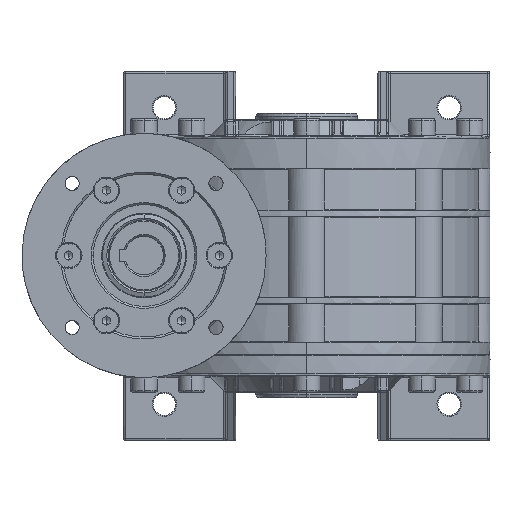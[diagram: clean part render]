
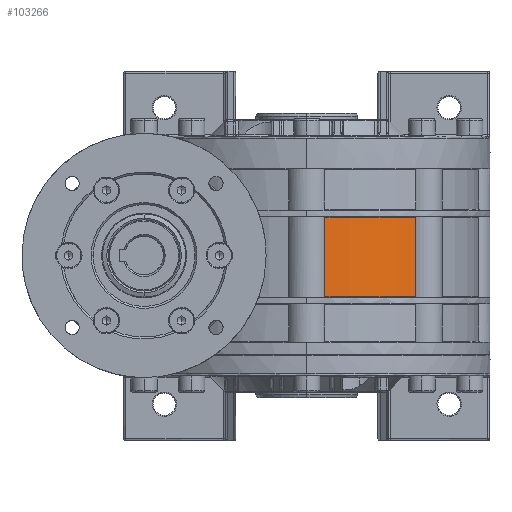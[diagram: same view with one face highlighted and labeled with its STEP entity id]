
A CAD part, left-side view. The second image highlights one B-rep face of the part: STEP entity #103266.
In plain terms, the highlighted cylindrical face has radius 85 mm (diameter 170 mm), a partial arc.
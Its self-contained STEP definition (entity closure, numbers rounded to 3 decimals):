
#35868 = CARTESIAN_POINT ( 'NONE',  ( 0., 0., 67.475 ) ) ;
#35922 = DIRECTION ( 'NONE',  ( 1., 0., 0. ) ) ;
#35923 = DIRECTION ( 'NONE',  ( 0., 0., 1. ) ) ;
#35924 = CARTESIAN_POINT ( 'NONE',  ( 0., 0., 28.475 ) ) ;
#35925 = AXIS2_PLACEMENT_3D ( 'NONE', #35924, #35923, #35922 ) ;
#35927 = CIRCLE ( 'NONE', #35925, 85. ) ;
#35937 = CARTESIAN_POINT ( 'NONE',  ( -66.076, -53.469, 28.475 ) ) ;
#35938 = DIRECTION ( 'NONE',  ( 0., 0., 1. ) ) ;
#35939 = VECTOR ( 'NONE', #35938, 1000. ) ;
#35940 = CARTESIAN_POINT ( 'NONE',  ( -66.076, -53.469, 0. ) ) ;
#35942 = LINE ( 'NONE', #35940, #35939 ) ;
#35990 = CARTESIAN_POINT ( 'NONE',  ( -66.076, -53.469, 67.475 ) ) ;
#35994 = DIRECTION ( 'NONE',  ( 1., 0., 0. ) ) ;
#35997 = DIRECTION ( 'NONE',  ( 0., 0., -1. ) ) ;
#36000 = AXIS2_PLACEMENT_3D ( 'NONE', #35868, #35997, #35994 ) ;
#36002 = CIRCLE ( 'NONE', #36000, 85. ) ;
#101553 = VERTEX_POINT ( 'NONE', #192830 ) ;
#101559 = EDGE_CURVE ( 'NONE', #101562, #101553, #192835, .T. ) ;
#101562 = VERTEX_POINT ( 'NONE', #192814 ) ;
#102604 = ORIENTED_EDGE ( 'NONE', *, *, #102608, .F. ) ;
#102608 = EDGE_CURVE ( 'NONE', #102611, #101553, #36002, .T. ) ;
#102611 = VERTEX_POINT ( 'NONE', #35990 ) ;
#102614 = ORIENTED_EDGE ( 'NONE', *, *, #102616, .F. ) ;
#102616 = EDGE_CURVE ( 'NONE', #102618, #102611, #35942, .T. ) ;
#102618 = VERTEX_POINT ( 'NONE', #35937 ) ;
#102621 = ORIENTED_EDGE ( 'NONE', *, *, #102624, .F. ) ;
#102624 = EDGE_CURVE ( 'NONE', #101562, #102618, #35927, .T. ) ;
#102627 = ORIENTED_EDGE ( 'NONE', *, *, #101559, .T. ) ;
#103266 = ADVANCED_FACE ( 'NONE', ( #210669 ), #210675, .F. ) ;
#103272 = EDGE_LOOP ( 'NONE', ( #102604, #102614, #102621, #102627 ) ) ;
#192743 = VECTOR ( 'NONE', #192817, 1000. ) ;
#192745 = CARTESIAN_POINT ( 'NONE',  ( -84.531, -8.914, 0. ) ) ;
#192814 = CARTESIAN_POINT ( 'NONE',  ( -84.531, -8.914, 28.475 ) ) ;
#192817 = DIRECTION ( 'NONE',  ( 0., 0., 1. ) ) ;
#192830 = CARTESIAN_POINT ( 'NONE',  ( -84.531, -8.914, 67.475 ) ) ;
#192835 = LINE ( 'NONE', #192745, #192743 ) ;
#210669 = FACE_OUTER_BOUND ( 'NONE', #103272, .T. ) ;
#210674 = AXIS2_PLACEMENT_3D ( 'NONE', #210802, #210800, #210798 ) ;
#210675 = CYLINDRICAL_SURFACE ( 'NONE', #210674, 85. ) ;
#210798 = DIRECTION ( 'NONE',  ( 1., 0., 0. ) ) ;
#210800 = DIRECTION ( 'NONE',  ( 0., 0., 1. ) ) ;
#210802 = CARTESIAN_POINT ( 'NONE',  ( 0., 0., 0. ) ) ;
